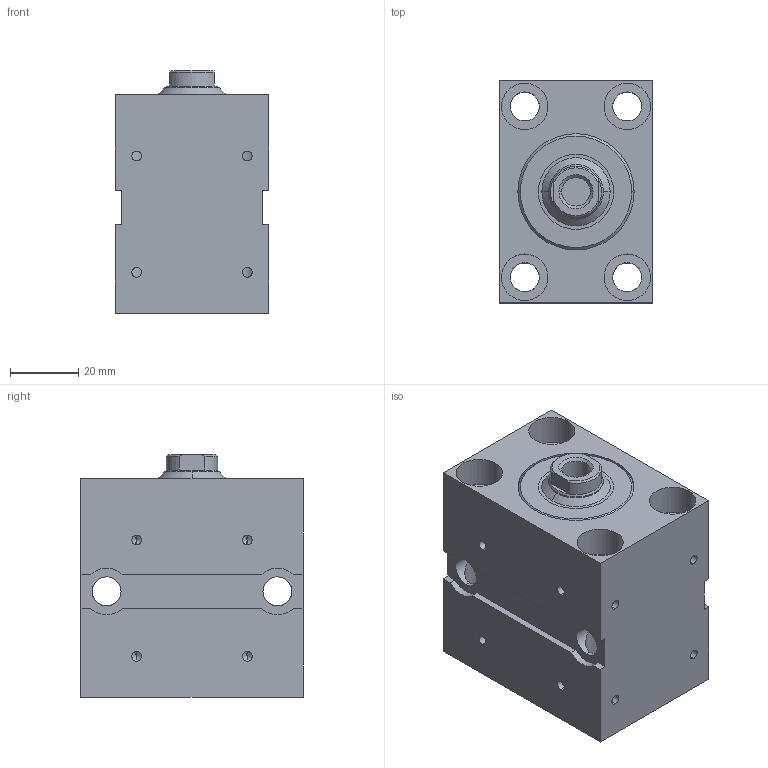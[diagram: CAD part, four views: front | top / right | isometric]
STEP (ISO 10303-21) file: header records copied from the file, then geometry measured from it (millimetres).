
FILE_DESCRIPTION (( 'STEP AP203' ), '1' );
FILE_NAME ('BZ_500.25_16.78.201.020 PP.KBC33__DH_0_.STEP', '2022-05-10T14:16:40', ( '' ), ( '' ), 'SwSTEP 2.0', 'SolidWorks 2020', '' );
FILE_SCHEMA (( 'CONFIG_CONTROL_DESIGN' ));
Length unit declared in the file: millimetre
Products named in the file (6): _Dichtungssatz f. BZ_RZ_FZ.25_16.xx.201.20 Artikelnr._ 013322(0)^BZ_500.25_16.78.201.020 PP.KBC33__DH_0_(2)_BZ_500.25_16.78.201.020 PP.KBC33__DH_0_; BZ_500.25_16.78.201.020 PP.KBC33__DH_0_; _Verschraubung komplett mit Dichtung f. BZ_RZ_FZ.25_16.201, Art.-Nr._ 092861(201)^BZ_500.25_16.78.201.020 PP.KBC33__DH_0_(2)_BZ_500.25_16.78.201.020 PP.KBC33__DH_0_; _Gehaeuse f. BZ500.25_16.Fehler in IDBF.201.20Fehler in IDNT00(1333frei278000))7^BZ_500.25_16.78.201.020 PP.KBC33__DH_0_(2)_BZ_500.25_16.78.201.020 PP.KBC33__DH_0_; _Kolbenstange komplett f. BZ_RZ_FZ.25_16.xx.201.20, Art.-Nr._ 037724(0_11 1 10 1.5 0 0 7 15 0 0 0)0^BZ_500.25_16.78.201.020 PP.KBC33__DH_0_(2)_BZ_500.25_16.78.201.020 PP.KBC33__DH_0_; BZ_500.25_16.78.201.020 PP.KBC33__DH_0_(2)^BZ_500.25_16.78.201.020 PP.KBC33__DH_0_
Assembly tree (5 placements, depth 3):
  BZ_500.25_16.78.201.020 PP.KBC33__DH_0_
    BZ_500.25_16.78.201.020 PP.KBC33__DH_0_(2)^BZ_500.25_16.78.201.020 PP.KBC33__DH_0_
      _Gehaeuse f. BZ500.25_16.Fehler in IDBF.201.20Fehler in IDNT00(1333frei278000))7^BZ_500.25_16.78.201.020 PP.KBC33__DH_0_(2)_BZ_500.25_16.78.201.020 PP.KBC33__DH_0_
      _Verschraubung komplett mit Dichtung f. BZ_RZ_FZ.25_16.201, Art.-Nr._ 092861(201)^BZ_500.25_16.78.201.020 PP.KBC33__DH_0_(2)_BZ_500.25_16.78.201.020 PP.KBC33__DH_0_
      _Dichtungssatz f. BZ_RZ_FZ.25_16.xx.201.20 Artikelnr._ 013322(0)^BZ_500.25_16.78.201.020 PP.KBC33__DH_0_(2)_BZ_500.25_16.78.201.020 PP.KBC33__DH_0_
      _Kolbenstange komplett f. BZ_RZ_FZ.25_16.xx.201.20, Art.-Nr._ 037724(0_11 1 10 1.5 0 0 7 15 0 0 0)0^BZ_500.25_16.78.201.020 PP.KBC33__DH_0_(2)_BZ_500.25_16.78.201.020 PP.KBC33__DH_0_
Bounding box: 45 x 65 x 71 mm (x, y, z)
Volume: 150448.4 mm3; surface area: 46343.2 mm2
Topology: 4 solids, 4 shells, 198 faces, 490 edges, 300 vertices
Faces by surface type: cylinder 117, plane 51, cone 30
Entity records: 6851 total; most frequent: CARTESIAN_POINT 1494, DIRECTION 1046, ORIENTED_EDGE 948, EDGE_CURVE 474, AXIS2_PLACEMENT_3D 415, VERTEX_POINT 300, EDGE_LOOP 250, LINE 216
